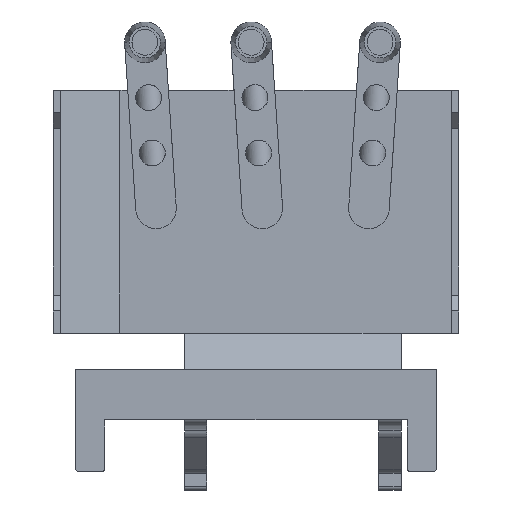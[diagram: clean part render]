
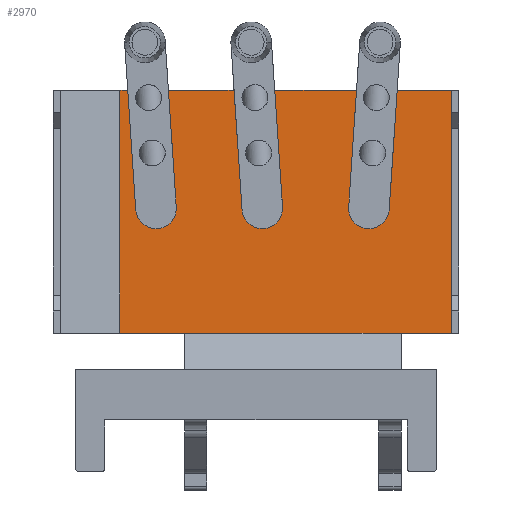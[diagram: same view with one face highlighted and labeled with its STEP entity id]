
A CAD part, front view. The second image highlights one B-rep face of the part: STEP entity #2970.
In plain terms, the highlighted planar face has unit normal (0, -1, 0).
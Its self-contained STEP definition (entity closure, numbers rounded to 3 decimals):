
#9=DIRECTION('',(0.,0.,-1.));
#10=VECTOR('',#9,32.9);
#11=CARTESIAN_POINT('',(26.5,2.25,20.575));
#12=LINE('',#11,#10);
#93=DIRECTION('',(1.,0.,0.));
#94=VECTOR('',#93,7.377);
#95=CARTESIAN_POINT('',(19.123,2.25,20.575));
#96=LINE('',#95,#94);
#121=DIRECTION('',(-0.067,0.,0.998));
#122=VECTOR('',#121,16.219);
#123=CARTESIAN_POINT('',(-16.294,2.25,4.392));
#124=LINE('',#123,#122);
#125=CARTESIAN_POINT('',(-13.55,2.25,4.575));
#126=DIRECTION('',(0.,1.,0.));
#127=DIRECTION('',(0.998,0.,0.067));
#128=AXIS2_PLACEMENT_3D('',#125,#126,#127);
#130=DIRECTION('',(0.067,0.,-0.998));
#131=VECTOR('',#130,15.852);
#132=CARTESIAN_POINT('',(-11.861,2.25,20.575));
#133=LINE('',#132,#131);
#134=DIRECTION('',(-0.067,0.,0.998));
#135=VECTOR('',#134,16.219);
#136=CARTESIAN_POINT('',(-1.894,2.25,4.392));
#137=LINE('',#136,#135);
#138=CARTESIAN_POINT('',(0.85,2.25,4.575));
#139=DIRECTION('',(0.,1.,0.));
#140=DIRECTION('',(0.998,0.,0.067));
#141=AXIS2_PLACEMENT_3D('',#138,#139,#140);
#143=DIRECTION('',(0.067,0.,-0.998));
#144=VECTOR('',#143,15.852);
#145=CARTESIAN_POINT('',(2.539,2.25,20.575));
#146=LINE('',#145,#144);
#147=DIRECTION('',(0.067,0.,0.998));
#148=VECTOR('',#147,15.852);
#149=CARTESIAN_POINT('',(12.556,2.25,4.758));
#150=LINE('',#149,#148);
#151=CARTESIAN_POINT('',(15.3,2.25,4.575));
#152=DIRECTION('',(0.,1.,0.));
#153=DIRECTION('',(0.998,0.,-0.067));
#154=AXIS2_PLACEMENT_3D('',#151,#152,#153);
#156=DIRECTION('',(-0.067,0.,-0.998));
#157=VECTOR('',#156,16.219);
#158=CARTESIAN_POINT('',(19.123,2.25,20.575));
#159=LINE('',#158,#157);
#160=DIRECTION('',(1.,0.,0.));
#161=VECTOR('',#160,6.85);
#162=CARTESIAN_POINT('',(19.65,2.25,-12.325));
#163=LINE('',#162,#161);
#164=DIRECTION('',(1.,0.,0.));
#165=VECTOR('',#164,8.806);
#166=CARTESIAN_POINT('',(-18.456,2.25,-12.325));
#167=LINE('',#166,#165);
#172=DIRECTION('',(0.,0.,1.));
#173=VECTOR('',#172,32.9);
#174=CARTESIAN_POINT('',(-18.456,2.25,-12.325));
#175=LINE('',#174,#173);
#396=DIRECTION('',(-1.,0.,0.));
#397=VECTOR('',#396,29.3);
#398=CARTESIAN_POINT('',(19.65,2.25,-12.325));
#399=LINE('',#398,#397);
#1208=DIRECTION('',(1.,0.,0.));
#1209=VECTOR('',#1208,11.072);
#1210=CARTESIAN_POINT('',(2.539,2.25,20.575));
#1211=LINE('',#1210,#1209);
#1341=DIRECTION('',(1.,0.,0.));
#1342=VECTOR('',#1341,8.888);
#1343=CARTESIAN_POINT('',(-11.861,2.25,20.575));
#1344=LINE('',#1343,#1342);
#1490=DIRECTION('',(1.,0.,0.));
#1491=VECTOR('',#1490,1.082);
#1492=CARTESIAN_POINT('',(-18.456,2.25,20.575));
#1493=LINE('',#1492,#1491);
#2177=CARTESIAN_POINT('',(-18.456,2.25,-12.325));
#2179=VERTEX_POINT('',#2177);
#2181=CARTESIAN_POINT('',(-18.456,2.25,20.575));
#2182=VERTEX_POINT('',#2181);
#2279=CARTESIAN_POINT('',(26.5,2.25,-12.325));
#2281=VERTEX_POINT('',#2279);
#2289=CARTESIAN_POINT('',(26.5,2.25,20.575));
#2290=VERTEX_POINT('',#2289);
#2345=CARTESIAN_POINT('',(19.65,2.25,-12.325));
#2347=VERTEX_POINT('',#2345);
#2447=CARTESIAN_POINT('',(19.123,2.25,20.575));
#2448=VERTEX_POINT('',#2447);
#2482=CARTESIAN_POINT('',(-9.65,2.25,-12.325));
#2484=VERTEX_POINT('',#2482);
#2539=CARTESIAN_POINT('',(-17.373,2.25,20.575));
#2540=VERTEX_POINT('',#2539);
#2541=CARTESIAN_POINT('',(-16.294,2.25,4.392));
#2542=VERTEX_POINT('',#2541);
#2543=CARTESIAN_POINT('',(-10.806,2.25,4.758));
#2544=VERTEX_POINT('',#2543);
#2545=CARTESIAN_POINT('',(-11.861,2.25,20.575));
#2546=VERTEX_POINT('',#2545);
#2556=CARTESIAN_POINT('',(-2.973,2.25,20.575));
#2557=VERTEX_POINT('',#2556);
#2558=CARTESIAN_POINT('',(-1.894,2.25,4.392));
#2559=VERTEX_POINT('',#2558);
#2560=CARTESIAN_POINT('',(3.594,2.25,4.758));
#2561=VERTEX_POINT('',#2560);
#2562=CARTESIAN_POINT('',(2.539,2.25,20.575));
#2563=VERTEX_POINT('',#2562);
#2573=CARTESIAN_POINT('',(13.611,2.25,20.575));
#2574=VERTEX_POINT('',#2573);
#2575=CARTESIAN_POINT('',(12.556,2.25,4.758));
#2576=VERTEX_POINT('',#2575);
#2577=CARTESIAN_POINT('',(18.044,2.25,4.392));
#2578=VERTEX_POINT('',#2577);
#2930=CARTESIAN_POINT('',(0.,2.25,7.724));
#2931=DIRECTION('',(0.,1.,0.));
#2932=DIRECTION('',(0.,0.,1.));
#2933=AXIS2_PLACEMENT_3D('',#2930,#2931,#2932);
#2934=PLANE('',#2933);
#2936=ORIENTED_EDGE('',*,*,#2935,.T.);
#2938=ORIENTED_EDGE('',*,*,#2937,.T.);
#2940=ORIENTED_EDGE('',*,*,#2939,.F.);
#2942=ORIENTED_EDGE('',*,*,#2941,.F.);
#2944=ORIENTED_EDGE('',*,*,#2943,.F.);
#2946=ORIENTED_EDGE('',*,*,#2945,.T.);
#2948=ORIENTED_EDGE('',*,*,#2947,.F.);
#2950=ORIENTED_EDGE('',*,*,#2949,.F.);
#2952=ORIENTED_EDGE('',*,*,#2951,.F.);
#2954=ORIENTED_EDGE('',*,*,#2953,.T.);
#2956=ORIENTED_EDGE('',*,*,#2955,.F.);
#2958=ORIENTED_EDGE('',*,*,#2957,.F.);
#2960=ORIENTED_EDGE('',*,*,#2959,.F.);
#2961=ORIENTED_EDGE('',*,*,#2892,.T.);
#2962=ORIENTED_EDGE('',*,*,#2806,.T.);
#2963=ORIENTED_EDGE('',*,*,#2841,.F.);
#2965=ORIENTED_EDGE('',*,*,#2964,.T.);
#2967=ORIENTED_EDGE('',*,*,#2966,.F.);
#2968=EDGE_LOOP('',(#2936,#2938,#2940,#2942,#2944,#2946,#2948,#2950,#2952,#2954,
#2956,#2958,#2960,#2961,#2962,#2963,#2965,#2967));
#2969=FACE_OUTER_BOUND('',#2968,.F.);
#2970=ADVANCED_FACE('',(#2969),#2934,.F.);
#129=CIRCLE('',#128,2.75);
#142=CIRCLE('',#141,2.75);
#155=CIRCLE('',#154,2.75);
#2806=EDGE_CURVE('',#2290,#2281,#12,.T.);
#2841=EDGE_CURVE('',#2347,#2281,#163,.T.);
#2892=EDGE_CURVE('',#2448,#2290,#96,.T.);
#2935=EDGE_CURVE('',#2179,#2182,#175,.T.);
#2937=EDGE_CURVE('',#2182,#2540,#1493,.T.);
#2939=EDGE_CURVE('',#2542,#2540,#124,.T.);
#2941=EDGE_CURVE('',#2544,#2542,#129,.T.);
#2943=EDGE_CURVE('',#2546,#2544,#133,.T.);
#2945=EDGE_CURVE('',#2546,#2557,#1344,.T.);
#2947=EDGE_CURVE('',#2559,#2557,#137,.T.);
#2949=EDGE_CURVE('',#2561,#2559,#142,.T.);
#2951=EDGE_CURVE('',#2563,#2561,#146,.T.);
#2953=EDGE_CURVE('',#2563,#2574,#1211,.T.);
#2955=EDGE_CURVE('',#2576,#2574,#150,.T.);
#2957=EDGE_CURVE('',#2578,#2576,#155,.T.);
#2959=EDGE_CURVE('',#2448,#2578,#159,.T.);
#2964=EDGE_CURVE('',#2347,#2484,#399,.T.);
#2966=EDGE_CURVE('',#2179,#2484,#167,.T.);
